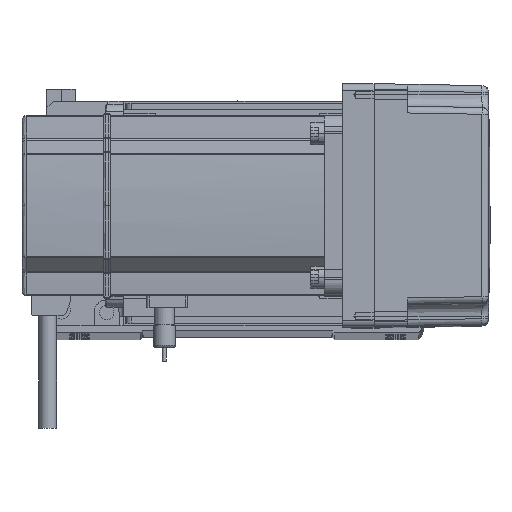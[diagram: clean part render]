
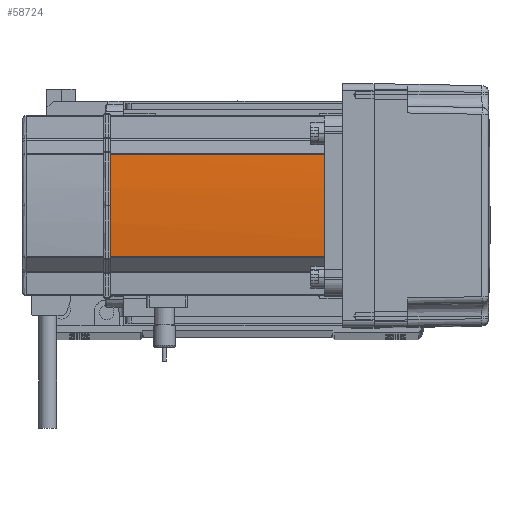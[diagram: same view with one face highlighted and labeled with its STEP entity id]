
A CAD part, top view. The second image highlights one B-rep face of the part: STEP entity #58724.
In plain terms, the highlighted cylindrical face has radius 270 mm (diameter 540 mm), a partial arc.
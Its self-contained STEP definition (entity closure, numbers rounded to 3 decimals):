
#3066 = DIRECTION ( 'NONE',  ( 1., 0., 0. ) ) ;
#3345 = EDGE_LOOP ( 'NONE', ( #44890, #61243, #7884, #56890, #22799 ) ) ;
#3375 = VERTEX_POINT ( 'NONE', #3890 ) ;
#3890 = CARTESIAN_POINT ( 'NONE',  ( -39.042, 22.724, 134. ) ) ;
#4913 = DIRECTION ( 'NONE',  ( 1., 0., 0. ) ) ;
#5306 = DIRECTION ( 'NONE',  ( 0., 0., -1. ) ) ;
#7884 = ORIENTED_EDGE ( 'NONE', *, *, #12248, .T. ) ;
#8271 = CARTESIAN_POINT ( 'NONE',  ( -39.042, -22.724, 0. ) ) ;
#12248 = EDGE_CURVE ( 'NONE', #3375, #23364, #41812, .T. ) ;
#12326 = DIRECTION ( 'NONE',  ( 1., 0., 0. ) ) ;
#14016 = VERTEX_POINT ( 'NONE', #40950 ) ;
#14199 = CARTESIAN_POINT ( 'NONE',  ( 230., 0., 39. ) ) ;
#21306 = EDGE_CURVE ( 'NONE', #23998, #23364, #36138, .T. ) ;
#22411 = CARTESIAN_POINT ( 'NONE',  ( -39.042, 22.724, 0. ) ) ;
#22799 = ORIENTED_EDGE ( 'NONE', *, *, #48100, .T. ) ;
#23067 = DIRECTION ( 'NONE',  ( 0., 0., -1. ) ) ;
#23284 = DIRECTION ( 'NONE',  ( 0., 0., 1. ) ) ;
#23364 = VERTEX_POINT ( 'NONE', #39946 ) ;
#23998 = VERTEX_POINT ( 'NONE', #28905 ) ;
#24773 = FACE_OUTER_BOUND ( 'NONE', #3345, .T. ) ;
#26919 = VECTOR ( 'NONE', #23284, 1000. ) ;
#26927 = CARTESIAN_POINT ( 'NONE',  ( 230., 0., 0. ) ) ;
#27702 = LINE ( 'NONE', #8271, #26919 ) ;
#28453 = CIRCLE ( 'NONE', #54302, 270. ) ;
#28905 = CARTESIAN_POINT ( 'NONE',  ( -39.042, -22.724, 39. ) ) ;
#28941 = AXIS2_PLACEMENT_3D ( 'NONE', #55995, #23067, #32362 ) ;
#29197 = VECTOR ( 'NONE', #41449, 1000. ) ;
#30696 = AXIS2_PLACEMENT_3D ( 'NONE', #26927, #50124, #3066 ) ;
#31721 = EDGE_CURVE ( 'NONE', #48898, #14016, #55729, .T. ) ;
#32348 = AXIS2_PLACEMENT_3D ( 'NONE', #14199, #5306, #4913 ) ;
#32362 = DIRECTION ( 'NONE',  ( 1., 0., 0. ) ) ;
#35774 = DIRECTION ( 'NONE',  ( 0., 0., -1. ) ) ;
#36138 = CIRCLE ( 'NONE', #32348, 270. ) ;
#38722 = EDGE_CURVE ( 'NONE', #14016, #3375, #28453, .T. ) ;
#39946 = CARTESIAN_POINT ( 'NONE',  ( -39.042, 22.724, 39. ) ) ;
#40950 = CARTESIAN_POINT ( 'NONE',  ( -40., 0., 134. ) ) ;
#41449 = DIRECTION ( 'NONE',  ( 0., 0., -1. ) ) ;
#41812 = LINE ( 'NONE', #22411, #29197 ) ;
#44890 = ORIENTED_EDGE ( 'NONE', *, *, #31721, .T. ) ;
#45236 = CARTESIAN_POINT ( 'NONE',  ( -39.042, -22.724, 134. ) ) ;
#45332 = CARTESIAN_POINT ( 'NONE',  ( 230., 0., 134. ) ) ;
#48100 = EDGE_CURVE ( 'NONE', #23998, #48898, #27702, .T. ) ;
#48478 = CYLINDRICAL_SURFACE ( 'NONE', #30696, 270. ) ;
#48898 = VERTEX_POINT ( 'NONE', #45236 ) ;
#50124 = DIRECTION ( 'NONE',  ( 0., 0., 1. ) ) ;
#54302 = AXIS2_PLACEMENT_3D ( 'NONE', #45332, #35774, #12326 ) ;
#55729 = CIRCLE ( 'NONE', #28941, 270. ) ;
#55995 = CARTESIAN_POINT ( 'NONE',  ( 230., 0., 134. ) ) ;
#56890 = ORIENTED_EDGE ( 'NONE', *, *, #21306, .F. ) ;
#58724 = ADVANCED_FACE ( 'NONE', ( #24773 ), #48478, .T. ) ;
#61243 = ORIENTED_EDGE ( 'NONE', *, *, #38722, .T. ) ;
